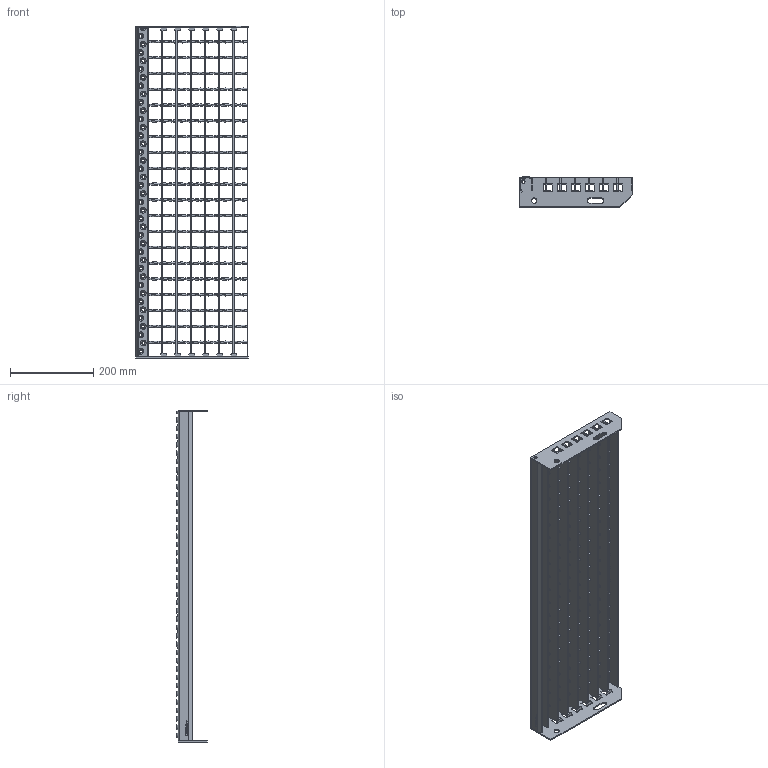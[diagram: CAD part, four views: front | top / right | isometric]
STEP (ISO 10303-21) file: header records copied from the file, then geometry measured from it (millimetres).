
FILE_DESCRIPTION(/* description */ (''),/* implementation_level */ '2;1');
FILE_NAME(/* name */ 'M:\Abteilung\TB\Inventor\Haverkotte\Lager STEP\SP-Stufen\SP 330-34 38-3\SP 330-34 38-3 800mm x 270mm.stp',/* time_stamp */ '2019-11-14T09:29:12+01:00',/* author */ ('phaverkotte'),/* organization */ (''),/* preprocessor_version */ 'ST-DEVELOPER v17.2',/* originating_system */ 'Autodesk Inventor 2019',/* authorisation */ '');
FILE_SCHEMA (('AUTOMOTIVE_DESIGN { 1 0 10303 214 3 1 1 }'));
Length unit declared in the file: millimetre
Products named in the file (8): Stufe SP; Seitenplatte ausgeklinkt links; Seitenplatte 240 ausgeklinkt extern rechts; Schod nášlap; SP Rošt schodu; Nosny pas; Krouceny drat; Hinteres Flach
Assembly tree (32 placements, depth 3):
  Stufe SP
    Seitenplatte ausgeklinkt links
    Seitenplatte 240 ausgeklinkt extern rechts
    Schod nášlap
    SP Rošt schodu
      Nosny pas  x7
      Krouceny drat  x20
      Hinteres Flach
Bounding box: 271.31 x 72.75 x 800 mm (x, y, z)
Volume: 830687.8 mm3; surface area: 674592.4 mm2
Topology: 31 solids, 31 shells, 1074 faces, 2995 edges, 2000 vertices
Faces by surface type: plane 538, cylinder 272, cone 120, bspline 104, torus 40
Full cylindrical faces by diameter (mm): 8 x2, 13 x2
Entity records: 28487 total; most frequent: CARTESIAN_POINT 9069, DIRECTION 4049, ORIENTED_EDGE 3950, EDGE_CURVE 1975, AXIS2_PLACEMENT_3D 1438, VERTEX_POINT 1320, LINE 1173, VECTOR 1173
